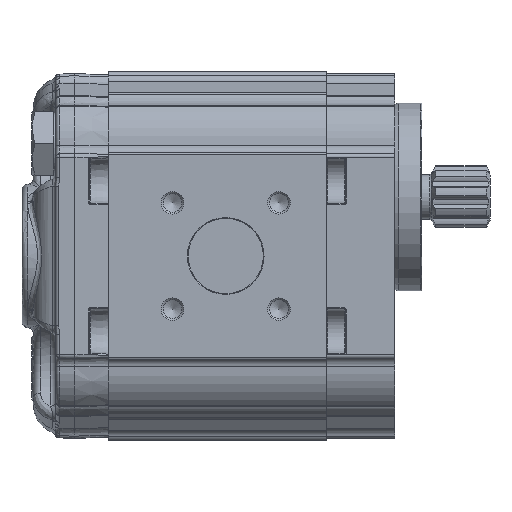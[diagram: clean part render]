
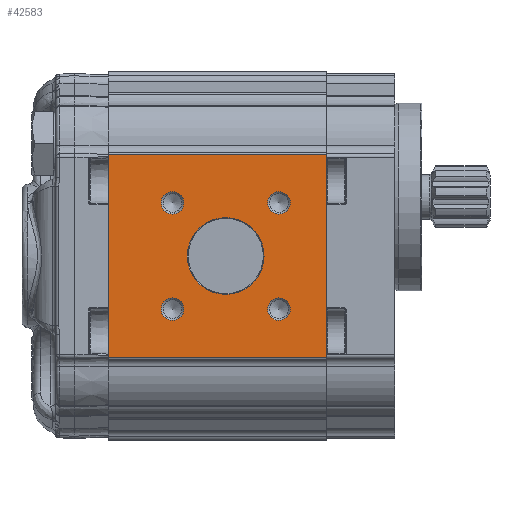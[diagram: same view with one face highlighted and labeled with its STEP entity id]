
A CAD part, left-side view. The second image highlights one B-rep face of the part: STEP entity #42583.
In plain terms, the highlighted planar face has unit normal (-1, 0, 0).
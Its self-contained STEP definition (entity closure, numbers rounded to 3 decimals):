
#2377=PLANE('',#44874);
#3345=LINE('',#58528,#5213);
#3346=LINE('',#58531,#5214);
#3347=LINE('',#58533,#5215);
#3348=LINE('',#58535,#5216);
#5213=VECTOR('',#49193,1000.);
#5214=VECTOR('',#49194,1000.);
#5215=VECTOR('',#49195,1000.);
#5216=VECTOR('',#49196,1000.);
#8960=ORIENTED_EDGE('',*,*,#16762,.T.);
#8961=ORIENTED_EDGE('',*,*,#16763,.T.);
#8962=ORIENTED_EDGE('',*,*,#16764,.T.);
#8963=ORIENTED_EDGE('',*,*,#16765,.T.);
#8964=ORIENTED_EDGE('',*,*,#16766,.T.);
#8965=ORIENTED_EDGE('',*,*,#16767,.F.);
#8966=ORIENTED_EDGE('',*,*,#16768,.F.);
#8967=ORIENTED_EDGE('',*,*,#16769,.T.);
#8968=ORIENTED_EDGE('',*,*,#16770,.T.);
#16762=EDGE_CURVE('',#20866,#20866,#23302,.F.);
#16763=EDGE_CURVE('',#20867,#20867,#23303,.F.);
#16764=EDGE_CURVE('',#20868,#20868,#23304,.F.);
#16765=EDGE_CURVE('',#20869,#20869,#23305,.F.);
#16766=EDGE_CURVE('',#20870,#20870,#23306,.F.);
#16767=EDGE_CURVE('',#20871,#20872,#3345,.T.);
#16768=EDGE_CURVE('',#20873,#20871,#3346,.T.);
#16769=EDGE_CURVE('',#20873,#20874,#3347,.T.);
#16770=EDGE_CURVE('',#20874,#20872,#3348,.T.);
#20866=VERTEX_POINT('',#58519);
#20867=VERTEX_POINT('',#58521);
#20868=VERTEX_POINT('',#58523);
#20869=VERTEX_POINT('',#58525);
#20870=VERTEX_POINT('',#58527);
#20871=VERTEX_POINT('',#58529);
#20872=VERTEX_POINT('',#58530);
#20873=VERTEX_POINT('',#58532);
#20874=VERTEX_POINT('',#58534);
#23302=CIRCLE('',#44875,10.2);
#23303=CIRCLE('',#44876,3.);
#23304=CIRCLE('',#44877,3.);
#23305=CIRCLE('',#44878,3.);
#23306=CIRCLE('',#44879,3.);
#24807=EDGE_LOOP('',(#8960));
#24808=EDGE_LOOP('',(#8961));
#24809=EDGE_LOOP('',(#8962));
#24810=EDGE_LOOP('',(#8963));
#24811=EDGE_LOOP('',(#8964));
#24812=EDGE_LOOP('',(#8965,#8966,#8967,#8968));
#26930=FACE_BOUND('',#24807,.T.);
#26931=FACE_BOUND('',#24808,.T.);
#26932=FACE_BOUND('',#24809,.T.);
#26933=FACE_BOUND('',#24810,.T.);
#26934=FACE_BOUND('',#24811,.T.);
#26935=FACE_BOUND('',#24812,.T.);
#42583=ADVANCED_FACE('',(#26930,#26931,#26932,#26933,#26934,#26935),#2377,
 .T.);
#44874=AXIS2_PLACEMENT_3D('',#58517,#49181,#49182);
#44875=AXIS2_PLACEMENT_3D('',#58518,#49183,#49184);
#44876=AXIS2_PLACEMENT_3D('',#58520,#49185,#49186);
#44877=AXIS2_PLACEMENT_3D('',#58522,#49187,#49188);
#44878=AXIS2_PLACEMENT_3D('',#58524,#49189,#49190);
#44879=AXIS2_PLACEMENT_3D('',#58526,#49191,#49192);
#49181=DIRECTION('',(-1.,0.,0.));
#49182=DIRECTION('',(0.,0.,1.));
#49183=DIRECTION('',(-1.,0.,0.));
#49184=DIRECTION('',(0.,0.,1.));
#49185=DIRECTION('',(-1.,0.,0.));
#49186=DIRECTION('',(0.,0.,1.));
#49187=DIRECTION('',(-1.,0.,0.));
#49188=DIRECTION('',(0.,0.,1.));
#49189=DIRECTION('',(-1.,0.,0.));
#49190=DIRECTION('',(0.,0.,1.));
#49191=DIRECTION('',(-1.,0.,0.));
#49192=DIRECTION('',(0.,0.,1.));
#49193=DIRECTION('',(0.,0.,-1.));
#49194=DIRECTION('',(0.,-1.,0.));
#49195=DIRECTION('',(0.,0.,-1.));
#49196=DIRECTION('',(0.,-1.,0.));
#58517=CARTESIAN_POINT('',(-43.,58.,27.048));
#58518=CARTESIAN_POINT('',(-43.,26.8,0.));
#58519=CARTESIAN_POINT('',(-43.,26.8,10.2));
#58520=CARTESIAN_POINT('',(-43.,40.942,-14.142));
#58521=CARTESIAN_POINT('',(-43.,40.942,-11.142));
#58522=CARTESIAN_POINT('',(-43.,40.942,14.142));
#58523=CARTESIAN_POINT('',(-43.,40.942,17.142));
#58524=CARTESIAN_POINT('',(-43.,12.658,14.142));
#58525=CARTESIAN_POINT('',(-43.,12.658,17.142));
#58526=CARTESIAN_POINT('',(-43.,12.658,-14.142));
#58527=CARTESIAN_POINT('',(-43.,12.658,-11.142));
#58528=CARTESIAN_POINT('',(-43.,0.,27.048));
#58529=CARTESIAN_POINT('',(-43.,0.,27.048));
#58530=CARTESIAN_POINT('',(-43.,0.,-27.048));
#58531=CARTESIAN_POINT('',(-43.,58.,27.048));
#58532=CARTESIAN_POINT('',(-43.,58.,27.048));
#58533=CARTESIAN_POINT('',(-43.,58.,27.048));
#58534=CARTESIAN_POINT('',(-43.,58.,-27.048));
#58535=CARTESIAN_POINT('',(-43.,58.,-27.048));
